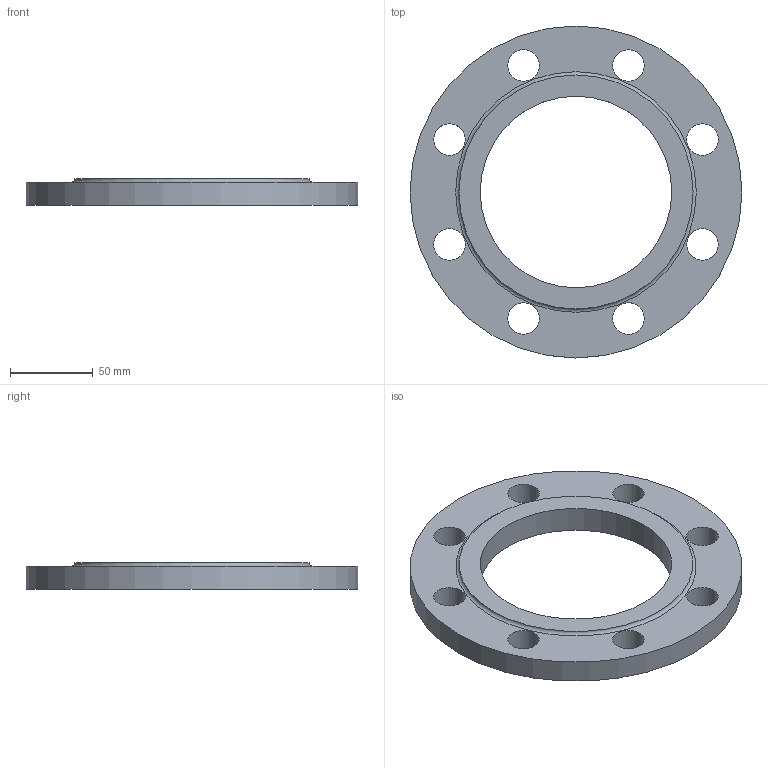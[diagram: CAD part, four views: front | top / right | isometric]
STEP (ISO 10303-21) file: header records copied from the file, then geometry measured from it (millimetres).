
FILE_DESCRIPTION(/* description */ (''),/* implementation_level */ '2;1');
FILE_NAME(/* name */ 'C:\Users\D\Documents\Inventor\HP\JIS\フランジ\JIS 5k sop rf\jis5k-sop-rf-100.stp',/* time_stamp */ '2024-09-12T17:02:53+09:00',/* author */ ('D'),/* organization */ (''),/* preprocessor_version */ 'ST-DEVELOPER v18',/* originating_system */ 'Autodesk Inventor 2020',/* authorisation */ '');
FILE_SCHEMA (('AUTOMOTIVE_DESIGN { 1 0 10303 214 3 1 1 }'));
Length unit declared in the file: millimetre
Products named in the file (1): jis5k-sop-rf-10
Bounding box: 200 x 200 x 16 mm (x, y, z)
Volume: 272331 mm3; surface area: 59166.7 mm2
Topology: 1 solids, 1 shells, 14 faces, 38 edges, 27 vertices
Faces by surface type: cylinder 10, plane 3, torus 1
Full cylindrical faces by diameter (mm): 19 x8, 115.4 x1, 200 x1
Entity records: 547 total; most frequent: DIRECTION 96, CARTESIAN_POINT 80, ORIENTED_EDGE 76, AXIS2_PLACEMENT_3D 43, EDGE_CURVE 38, EDGE_LOOP 33, CIRCLE 28, VERTEX_POINT 27
